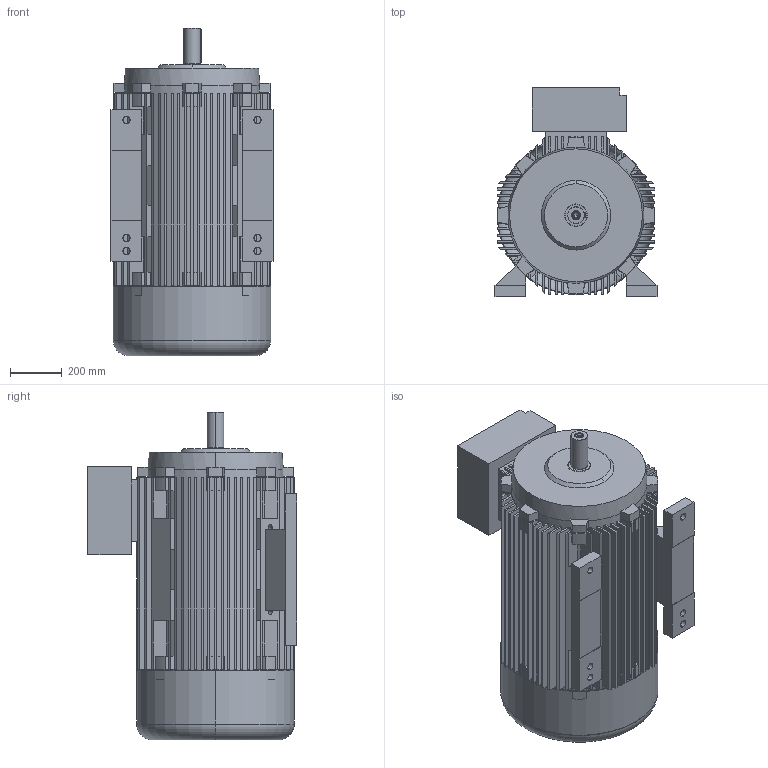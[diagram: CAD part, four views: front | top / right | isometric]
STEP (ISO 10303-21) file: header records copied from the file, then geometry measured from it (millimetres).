
FILE_DESCRIPTION (( 'STEP AP203' ), '1' );
FILE_NAME ('20.17515_A 7AT 315L -2 B3 STANDK.STEP', '2018-04-12T06:35:10', ( '' ), ( '' ), 'SwSTEP 2.0', 'SolidWorks 2017', '' );
FILE_SCHEMA (( 'CONFIG_CONTROL_DESIGN' ));
Length unit declared in the file: millimetre
Products named in the file (1): 20.17515_A 7AT 315L -2 B3 STANDK
Bounding box: 628 x 812 x 1270 mm (x, y, z)
Volume: 106591611.9 mm3; surface area: 11331835.2 mm2
Topology: 7 solids, 7 shells, 831 faces, 2254 edges, 1493 vertices
Faces by surface type: plane 677, cylinder 119, cone 22, bspline 9, torus 4
Entity records: 26312 total; most frequent: CARTESIAN_POINT 4934, ORIENTED_EDGE 4504, DIRECTION 4330, EDGE_CURVE 2252, LINE 1704, VECTOR 1704, VERTEX_POINT 1493, AXIS2_PLACEMENT_3D 1313
